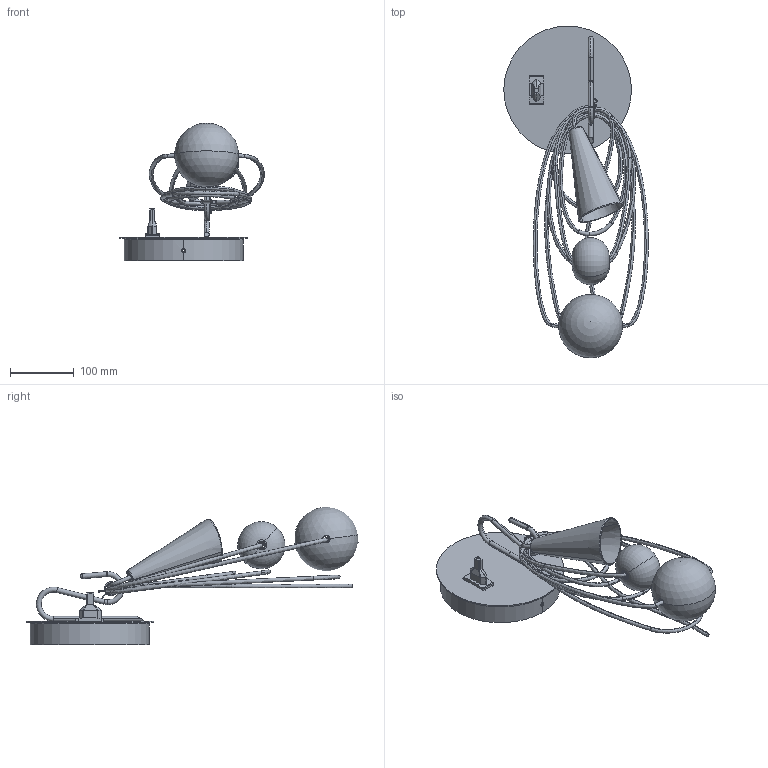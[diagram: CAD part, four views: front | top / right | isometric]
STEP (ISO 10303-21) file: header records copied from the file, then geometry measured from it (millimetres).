
FILE_DESCRIPTION (( 'STEP AP214' ), '1' );
FILE_NAME ('289_STD_W_PL_3D.STEP', '2021-05-05T12:34:22', ( '' ), ( '' ), 'SwSTEP 2.0', 'SolidWorks 2021', '' );
FILE_SCHEMA (( 'AUTOMOTIVE_DESIGN' ));
Length unit declared in the file: millimetre
Products named in the file (1): 289_STD_W_PL_3D
Bounding box: 226.15 x 520.07 x 215.22 mm (x, y, z)
Volume: 521050.4 mm3; surface area: 398989.1 mm2
Topology: 22 solids, 22 shells, 722 faces, 1845 edges, 1155 vertices
Faces by surface type: plane 265, cylinder 236, bspline 82, torus 74, cone 59, sphere 6
Entity records: 42226 total; most frequent: CARTESIAN_POINT 17113, ORIENTED_EDGE 3638, DIRECTION 3448, EDGE_CURVE 1819, AXIS2_PLACEMENT_3D 1315, VERTEX_POINT 1147, LINE 818, VECTOR 818
